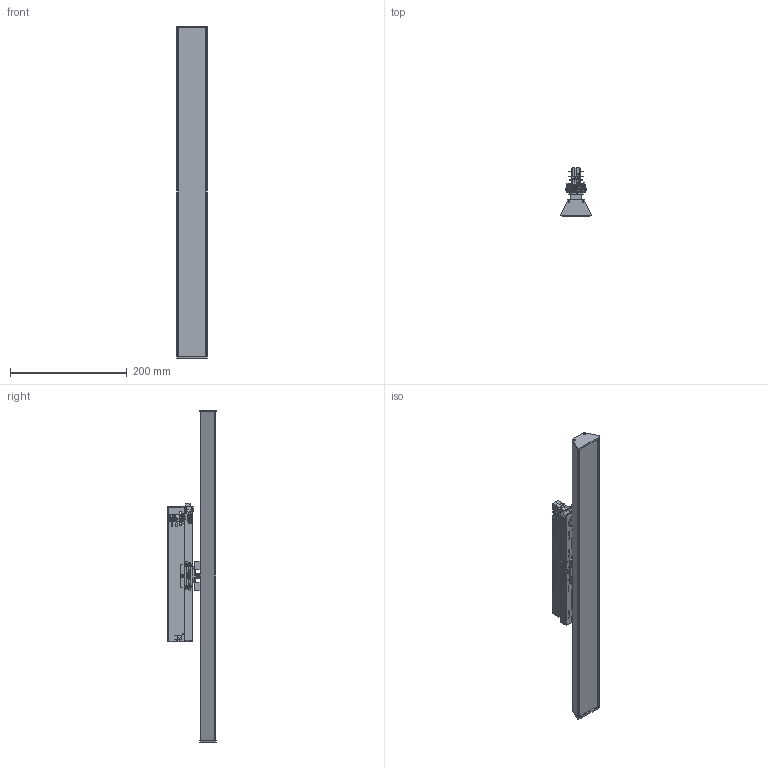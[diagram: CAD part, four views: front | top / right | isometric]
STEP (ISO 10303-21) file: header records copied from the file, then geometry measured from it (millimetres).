
FILE_DESCRIPTION(/* description */ (''),/* implementation_level */ '2;1');
FILE_NAME(/* name */ 'C:\Users\quotes\OneDrive - M LIGHT PTY LTD\Documents\Inventor\Projects\Mlight Projects Team\ENGINEERING - CAD\Favors\Akhila\Track Step File\Zelle 2B\mLight Zelle 2B 570mm Track Mounted_Simplify_1.stp',/* time_stamp */ '2024-06-03T16:59:59+10:00',/* author */ ('quotes'),/* organization */ (''),/* preprocessor_version */ 'ST-DEVELOPER v18.1',/* originating_system */ 'Autodesk Inventor 2022',/* authorisation */ '');
FILE_SCHEMA (('AUTOMOTIVE_DESIGN { 1 0 10303 214 3 1 1 }'));
Products named in the file (1): mLight Zelle 2B 570mm Track Mounted_Simplify_1
Bounding box: 52.2 x 82.97 x 568 mm (x, y, z)
Volume: 210352.3 mm3; surface area: 275707.6 mm2
Topology: 6 solids, 6 shells, 7041 faces, 19536 edges, 12328 vertices
Faces by surface type: plane 2673, cylinder 2118, bspline 1516, torus 284, cone 255, sphere 195
Full cylindrical faces by diameter (mm): 0.376 x3, 0.843 x2, 0.85 x6, 1.414 x4, 1.478 x2, 1.5 x1, 1.7 x4, 1.97 x2, 2 x3, 2.167 x4, 2.463 x2, 2.8 x5, 2.956 x3, 3 x5, 3.2 x4, 3.3 x2, 3.972 x2, 5.2 x1, 5.6 x1, 6 x1, 6.8 x1, 8.8 x1, 10 x1, 13.4 x1, 13.9 x1, 20.3 x1, 25 x1
Entity records: 509324 total; most frequent: CARTESIAN_POINT 332185, ORIENTED_EDGE 38920, DIRECTION 31376, EDGE_CURVE 19460, VERTEX_POINT 12320, AXIS2_PLACEMENT_3D 10981, LINE 9414, VECTOR 9414
